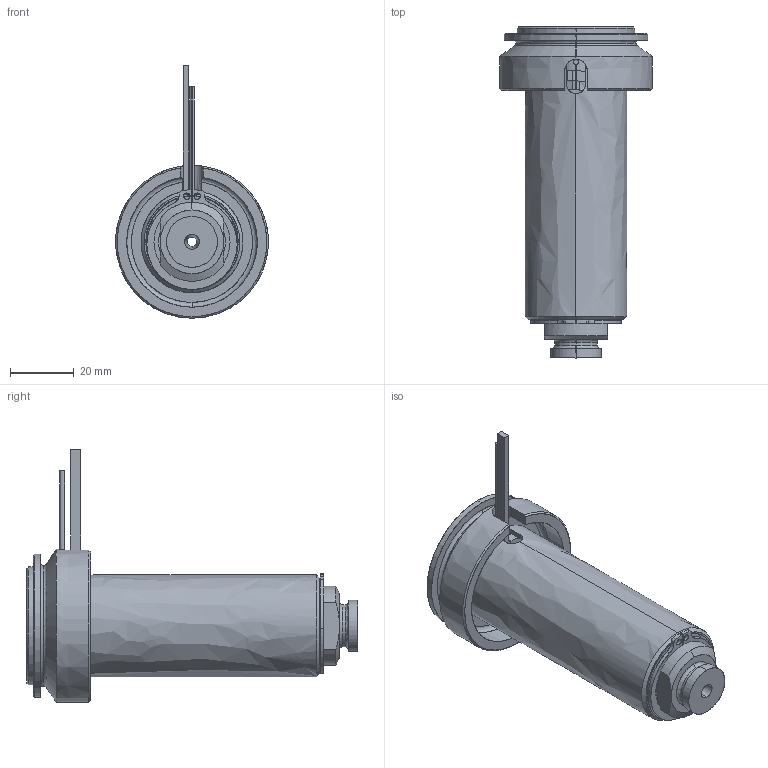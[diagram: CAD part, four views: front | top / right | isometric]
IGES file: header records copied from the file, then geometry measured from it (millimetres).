
Start section: SolidWorks IGES file using analytic representation for surfaces
Global section: file name: C:\Documents and Settings\ws-20\Desktop\TEMPORANEA\UGBE5002-M-A-5 [Ød-3.0 P-0 ØC-13].IGS; native system: SolidWorks 2012; preprocessor: SolidWorks 2012; author: ws-20; date: 120306.161705; units: millimetre
Bounding box: 48 x 104.25 x 79.3 mm (x, y, z)
Surface area: 39520.9 mm2 (no closed solid volume)
Topology: 0 solids, 0 shells, 110 faces, 2050 edges, 2050 vertices
Faces by surface type: revolution 63, bspline 47
